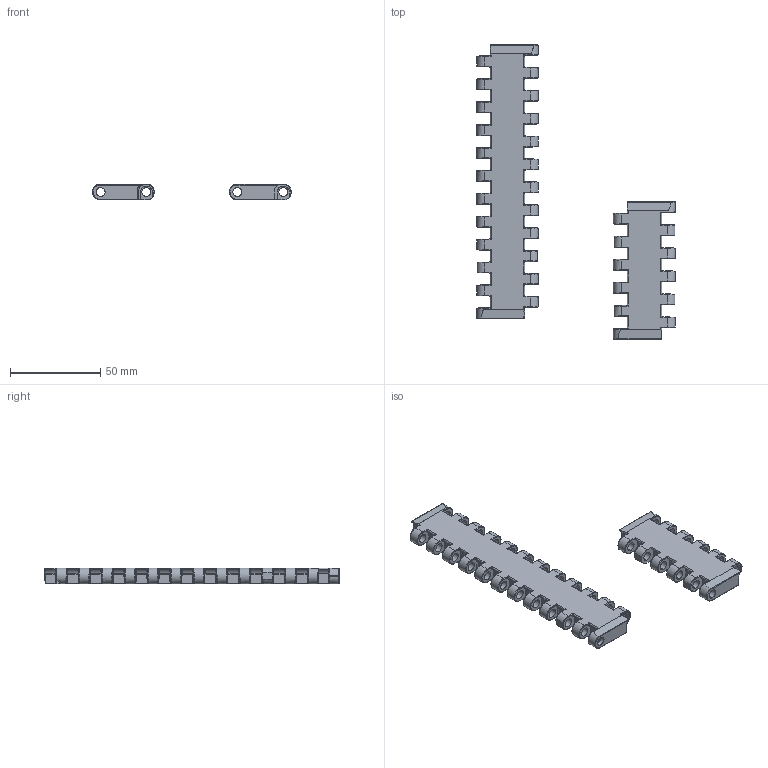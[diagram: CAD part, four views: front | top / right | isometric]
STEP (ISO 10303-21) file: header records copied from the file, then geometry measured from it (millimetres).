
FILE_DESCRIPTION(/* description */ (''),/* implementation_level */ '2;1');
FILE_NAME(/* name */ 'HS-502A-HD.stp',/* time_stamp */ '2021-05-12T16:29:50+08:00',/* author */ (''),/* organization */ (''),/* preprocessor_version */ 'ST-DEVELOPER v15',/* originating_system */ 'SIEMENS PLM Software NX 8.5',/* authorisation */ '');
FILE_SCHEMA (('AP203_CONFIGURATION_CONTROLLED_3D_DESIGN_OF_MECHANICAL_PARTS_AND_ASSEMBLIES_MIM_LF { 1 0 10303 403 2 1 2}'));
Products named in the file (1): Admi1D043A86yzhr
Bounding box: 110.09 x 163.28 x 8.86 mm (x, y, z)
Volume: 30360.1 mm3; surface area: 25233.2 mm2
Topology: 2 solids, 2 shells, 1352 faces, 3459 edges, 1984 vertices
Faces by surface type: cylinder 546, bspline 421, plane 231, torus 130, sphere 24
Entity records: 60905 total; most frequent: CARTESIAN_POINT 20662, ORIENTED_EDGE 6644, DIRECTION 6462, EDGE_CURVE 3322, AXIS2_PLACEMENT_3D 2708, VERTEX_POINT 1990, EDGE_LOOP 1440, PRESENTATION_STYLE_ASSIGNMENT 1354
